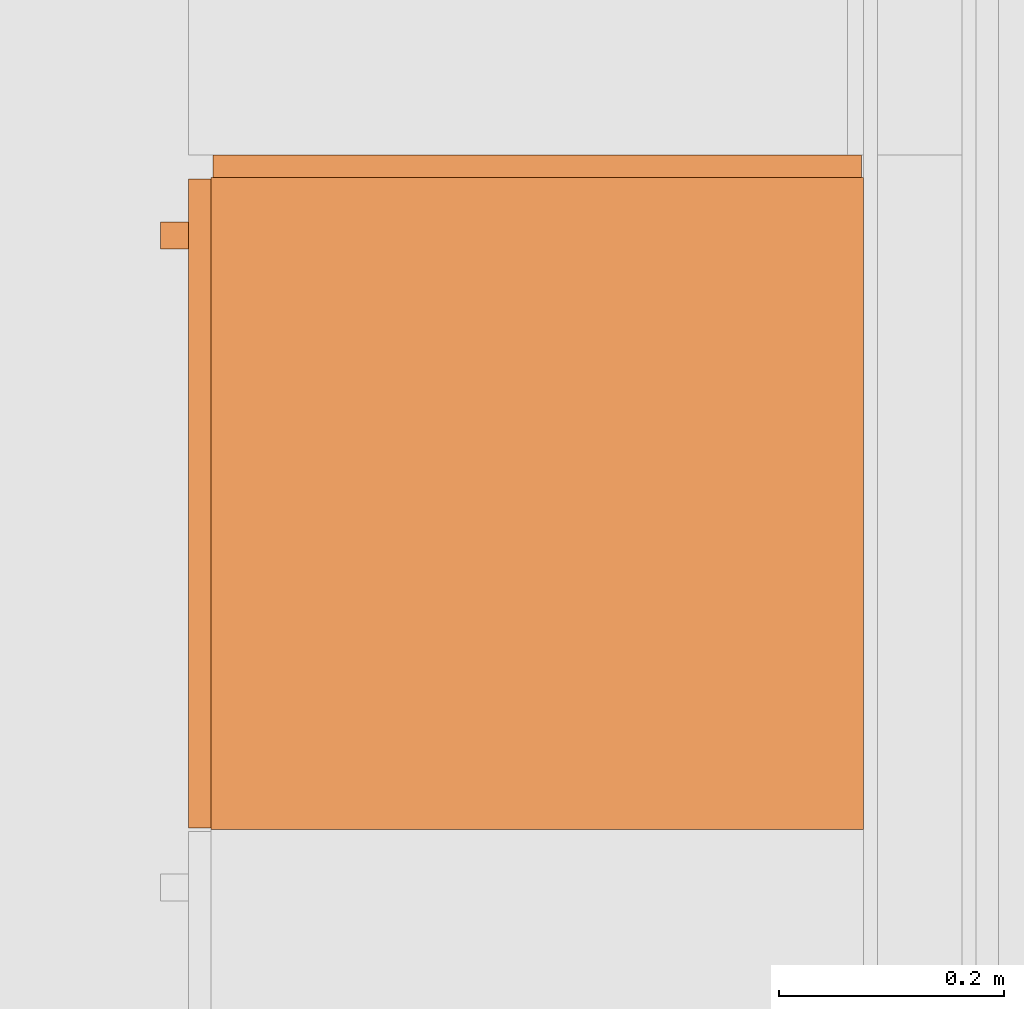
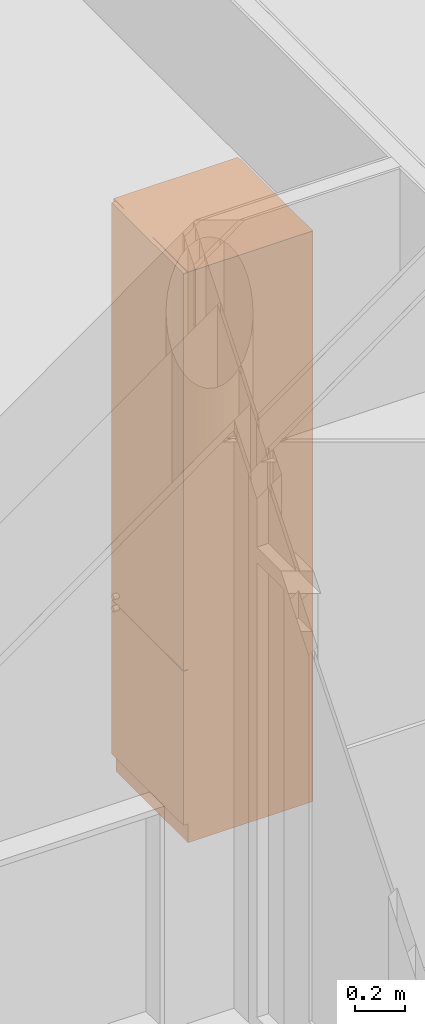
# One storey, part 92 of 167: 1 proxy.
"""IFC2X3 building model written with IfcOpenShell, lengths in millimetres."""

from ifc_helpers import new_model, entity, si_unit, converted_unit, derived_unit, money_unit, direction, frame, origin_with_axes, place, context, subcontext, project, spatial, faceted_brep, source, transform, mapped, type_object, type_shapes, element, save


model = new_model("IFC2X3")

# Units and contexts
model_context = context("Model", 3, precision=0.01, world=origin_with_axes(), true_north=direction((0.0, 1.0)))
plan_context = context("Plan", 3, precision=0.01, world=origin_with_axes(), true_north=direction((0.0, 1.0)))
body_context = subcontext(model_context, "Body", "Model", "MODEL_VIEW")
ifc_project = project(units=[si_unit("LENGTHUNIT", "METRE", prefix="MILLI"), si_unit("AREAUNIT", "SQUARE_METRE"), si_unit("VOLUMEUNIT", "CUBIC_METRE"), converted_unit("PLANEANGLEUNIT", "DEGREE", entity("IfcPlaneAngleMeasure", 0.0174532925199), si_unit("PLANEANGLEUNIT", "RADIAN"), dimensions=[0, 0, 0, 0, 0, 0, 0]), si_unit("SOLIDANGLEUNIT", "STERADIAN"), money_unit("EUR"), converted_unit("TIMEUNIT", "Year", entity("IfcTimeMeasure", 31556926.0), si_unit("TIMEUNIT", "SECOND"), dimensions=[0, 0, 1, 0, 0, 0, 0]), si_unit("MASSUNIT", "GRAM", prefix="KILO"), si_unit("THERMODYNAMICTEMPERATUREUNIT", "DEGREE_CELSIUS"), si_unit("LUMINOUSINTENSITYUNIT", "LUMEN"), si_unit("ENERGYUNIT", "JOULE", prefix="MEGA"), derived_unit("THERMALCONDUCTANCEUNIT", [(si_unit("POWERUNIT", "WATT"), 1), (si_unit("LENGTHUNIT", "METRE"), -1), (si_unit("THERMODYNAMICTEMPERATUREUNIT", "KELVIN"), -1)]), derived_unit("SPECIFICHEATCAPACITYUNIT", [(si_unit("ENERGYUNIT", "JOULE"), 1), (si_unit("MASSUNIT", "GRAM", prefix="KILO"), -1), (si_unit("THERMODYNAMICTEMPERATUREUNIT", "KELVIN"), -1)]), derived_unit("MASSDENSITYUNIT", [(si_unit("MASSUNIT", "GRAM", prefix="KILO"), 1), (si_unit("VOLUMEUNIT", "CUBIC_METRE"), -1)])], contexts=[model_context, plan_context])

# Site, building, storey
site_placement = place(None, origin_with_axes())
site = spatial("IfcSite", under=ifc_project, at=site_placement, Name="Site", CompositionType="ELEMENT")
building_placement = place(site_placement, origin_with_axes())
building = spatial("IfcBuilding", under=site, at=building_placement, Name="Naam gebouw", CompositionType="ELEMENT")
storey_placement = place(building_placement, origin_with_axes())
storey = spatial("IfcBuildingStorey", under=building, at=storey_placement, Name="Begane grond", CompositionType="ELEMENT", Elevation=0.0)

# Proxy
building_element_proxy_type = type_object("IfcBuildingElementProxyType", Name="Kast hoog 1D 24", PredefinedType="NOTDEFINED")
shared_shape = source(origin_with_axes(), body_context, "Body", "Brep", [
    faceted_brep([(-20.0, 20.0, 838.5), (-20.0, 20.0, 858.5), (-560.0, 20.0, 858.5), (-560.0, 20.0, 838.5), (-20.0, 580.0, 838.5), (-20.0, 580.0, 858.5), (-560.0, 580.0, 858.5), (-560.0, 580.0, 838.5)], [[[0, 1, 2, 3]], [[4, 5, 1, 0]], [[1, 5, 6, 2]], [[3, 2, 6, 7]], [[0, 3, 7, 4]], [[7, 6, 5, 4]]]),
    faceted_brep([(0.0, 20.0, 0.0), (0.0, 20.0, 90.0), (-580.0, 20.0, 90.0), (-580.0, 20.0, 0.0), (0.0, 600.0, 0.0), (0.0, 600.0, 90.0), (-580.0, 600.0, 90.0), (-580.0, 600.0, 0.0)], [[[0, 1, 2, 3]], [[4, 5, 1, 0]], [[1, 5, 6, 2]], [[3, 2, 6, 7]], [[0, 3, 7, 4]], [[7, 6, 5, 4]]]),
    faceted_brep([(0.0, 20.0, 2780.0), (0.0, 20.0, 2800.0), (-20.0, 20.0, 2800.0), (-20.0, 20.0, 2780.0), (0.0, 600.0, 2780.0), (0.0, 600.0, 2800.0), (-20.0, 600.0, 2800.0), (-560.0, 600.0, 2800.0), (-580.0, 600.0, 2800.0), (-580.0, 20.0, 2800.0), (-560.0, 20.0, 2800.0), (-560.0, 20.0, 2780.0), (-580.0, 20.0, 2780.0), (-580.0, 600.0, 2780.0), (-560.0, 600.0, 2780.0), (-20.0, 600.0, 2780.0)], [[[0, 1, 2, 3]], [[4, 5, 1, 0]], [[1, 5, 6, 7, 8, 9, 10, 2]], [[3, 2, 10, 11]], [[0, 3, 11, 12, 13, 14, 15, 4]], [[15, 6, 5, 4]], [[14, 7, 6, 15]], [[13, 8, 7, 14]], [[12, 9, 8, 13]], [[11, 10, 9, 12]]]),
    faceted_brep([(0.0, 20.0, 90.0), (0.0, 20.0, 110.0), (-20.0, 20.0, 110.0), (-20.0, 20.0, 90.0), (0.0, 600.0, 90.0), (0.0, 600.0, 110.0), (-20.0, 600.0, 110.0), (-560.0, 600.0, 110.0), (-580.0, 600.0, 110.0), (-580.0, 20.0, 110.0), (-560.0, 20.0, 110.0), (-560.0, 20.0, 90.0), (-580.0, 20.0, 90.0), (-580.0, 600.0, 90.0), (-560.0, 600.0, 90.0), (-20.0, 600.0, 90.0)], [[[0, 1, 2, 3]], [[4, 5, 1, 0]], [[1, 5, 6, 7, 8, 9, 10, 2]], [[3, 2, 10, 11]], [[0, 3, 11, 12, 13, 14, 15, 4]], [[15, 6, 5, 4]], [[14, 7, 6, 15]], [[13, 8, 7, 14]], [[12, 9, 8, 13]], [[11, 10, 9, 12]]]),
    faceted_brep([(0.0, 20.0, 110.0), (0.0, 20.0, 2780.0), (-20.0, 20.0, 2780.0), (-20.0, 20.0, 110.0), (0.0, 600.0, 110.0), (0.0, 600.0, 2780.0), (-580.0, 600.0, 2780.0), (-580.0, 20.0, 2780.0), (-560.0, 20.0, 2780.0), (-560.0, 580.0, 2780.0), (-20.0, 580.0, 2780.0), (-20.0, 580.0, 110.0), (-560.0, 580.0, 110.0), (-560.0, 20.0, 110.0), (-580.0, 20.0, 110.0), (-580.0, 600.0, 110.0)], [[[0, 1, 2, 3]], [[4, 5, 1, 0]], [[1, 5, 6, 7, 8, 9, 10, 2]], [[3, 2, 10, 11]], [[0, 3, 11, 12, 13, 14, 15, 4]], [[15, 6, 5, 4]], [[14, 7, 6, 15]], [[13, 8, 7, 14]], [[12, 9, 8, 13]], [[11, 10, 9, 12]]]),
    faceted_brep([(-560.0, 20.0, 329.5), (-560.0, 20.0, 349.5), (-560.0, 580.0, 349.5), (-560.0, 580.0, 329.5), (-20.0, 20.0, 329.5), (-20.0, 20.0, 349.5), (-20.0, 580.0, 349.5), (-20.0, 580.0, 329.5)], [[[0, 1, 2, 3]], [[4, 5, 1, 0]], [[1, 5, 6, 2]], [[3, 2, 6, 7]], [[0, 3, 7, 4]], [[7, 6, 5, 4]]]),
    faceted_brep([(-560.0, 20.0, 589.0), (-560.0, 20.0, 609.0), (-560.0, 580.0, 609.0), (-560.0, 580.0, 589.0), (-20.0, 20.0, 589.0), (-20.0, 20.0, 609.0), (-20.0, 580.0, 609.0), (-20.0, 580.0, 589.0)], [[[0, 1, 2, 3]], [[4, 5, 1, 0]], [[1, 5, 6, 2]], [[3, 2, 6, 7]], [[0, 3, 7, 4]], [[7, 6, 5, 4]]]),
    faceted_brep([(-1.5, 20.0, 91.5), (-1.5, 0.0, 91.5), (-578.5, 0.0, 91.5), (-578.5, 20.0, 91.5), (-1.5, 20.0, 847.0), (-1.5, 0.0, 847.0), (-578.5, 0.0, 847.0), (-578.5, 20.0, 847.0)], [[[0, 1, 2, 3]], [[4, 5, 1, 0]], [[1, 5, 6, 2]], [[3, 2, 6, 7]], [[0, 3, 7, 4]], [[7, 6, 5, 4]]]),
    faceted_brep([(-540.091109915, 0.0, 838.394171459), (-540.5, 0.0, 841.5), (-540.091109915, 0.0, 844.605828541), (-538.892304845, 0.0, 847.5), (-536.985281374, 0.0, 849.985281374), (-534.5, 0.0, 851.892304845), (-531.605828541, 0.0, 853.091109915), (-528.5, 0.0, 853.5), (-525.394171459, 0.0, 853.091109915), (-522.5, 0.0, 851.892304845), (-520.014718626, 0.0, 849.985281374), (-518.107695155, 0.0, 847.5), (-516.908890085, 0.0, 844.605828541), (-516.5, 0.0, 841.5), (-516.908890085, 0.0, 838.394171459), (-518.107695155, 0.0, 835.5), (-520.014718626, 0.0, 833.014718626), (-522.5, 0.0, 831.107695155), (-525.394171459, 0.0, 829.908890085), (-528.5, 0.0, 829.5), (-531.605828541, 0.0, 829.908890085), (-534.5, 0.0, 831.107695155), (-536.985281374, 0.0, 833.014718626), (-538.892304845, 0.0, 835.5), (-540.091109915, -25.0, 838.394171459), (-540.5, -25.0, 841.5), (-540.091109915, -25.0, 844.605828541), (-538.892304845, -25.0, 847.5), (-536.985281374, -25.0, 849.985281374), (-534.5, -25.0, 851.892304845), (-531.605828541, -25.0, 853.091109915), (-528.5, -25.0, 853.5), (-525.394171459, -25.0, 853.091109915), (-522.5, -25.0, 851.892304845), (-520.014718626, -25.0, 849.985281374), (-518.107695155, -25.0, 847.5), (-516.908890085, -25.0, 844.605828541), (-516.5, -25.0, 841.5), (-516.908890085, -25.0, 838.394171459), (-518.107695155, -25.0, 835.5), (-520.014718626, -25.0, 833.014718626), (-522.5, -25.0, 831.107695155), (-525.394171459, -25.0, 829.908890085), (-528.5, -25.0, 829.5), (-531.605828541, -25.0, 829.908890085), (-534.5, -25.0, 831.107695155), (-536.985281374, -25.0, 833.014718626), (-538.892304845, -25.0, 835.5)], [[[0, 1, 2, 3, 4, 5, 6, 7, 8, 9, 10, 11, 12, 13, 14, 15, 16, 17, 18, 19, 20, 21, 22, 23]], [[0, 24, 25, 1]], [[1, 25, 26, 2]], [[2, 26, 27, 3]], [[3, 27, 28, 4]], [[4, 28, 29, 5]], [[5, 29, 30, 6]], [[6, 30, 31, 7]], [[7, 31, 32, 8]], [[8, 32, 33, 9]], [[9, 33, 34, 10]], [[10, 34, 35, 11]], [[11, 35, 36, 12]], [[12, 36, 37, 13]], [[13, 37, 38, 14]], [[14, 38, 39, 15]], [[15, 39, 40, 16]], [[16, 40, 41, 17]], [[17, 41, 42, 18]], [[18, 42, 43, 19]], [[19, 43, 44, 20]], [[20, 44, 45, 21]], [[21, 45, 46, 22]], [[22, 46, 47, 23]], [[23, 47, 24, 0]], [[24, 47, 46, 45, 44, 43, 42, 41, 40, 39, 38, 37, 36, 35, 34, 33, 32, 31, 30, 29, 28, 27, 26, 25]]]),
    faceted_brep([(-1.5, 20.0, 850.0), (-1.5, 0.0, 850.0), (-578.5, 0.0, 850.0), (-578.5, 20.0, 850.0), (-1.5, 20.0, 2798.5), (-1.5, 0.0, 2798.5), (-578.5, 0.0, 2798.5), (-578.5, 20.0, 2798.5)], [[[0, 1, 2, 3]], [[4, 5, 1, 0]], [[1, 5, 6, 2]], [[3, 2, 6, 7]], [[0, 3, 7, 4]], [[7, 6, 5, 4]]]),
    faceted_brep([(-540.091109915, 0.0, 896.894171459), (-540.5, 0.0, 900.0), (-540.091109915, 0.0, 903.105828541), (-538.892304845, 0.0, 906.0), (-536.985281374, 0.0, 908.485281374), (-534.5, 0.0, 910.392304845), (-531.605828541, 0.0, 911.591109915), (-528.5, 0.0, 912.0), (-525.394171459, 0.0, 911.591109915), (-522.5, 0.0, 910.392304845), (-520.014718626, 0.0, 908.485281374), (-518.107695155, 0.0, 906.0), (-516.908890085, 0.0, 903.105828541), (-516.5, 0.0, 900.0), (-516.908890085, 0.0, 896.894171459), (-518.107695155, 0.0, 894.0), (-520.014718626, 0.0, 891.514718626), (-522.5, 0.0, 889.607695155), (-525.394171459, 0.0, 888.408890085), (-528.5, 0.0, 888.0), (-531.605828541, 0.0, 888.408890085), (-534.5, 0.0, 889.607695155), (-536.985281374, 0.0, 891.514718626), (-538.892304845, 0.0, 894.0), (-540.091109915, -25.0, 896.894171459), (-540.5, -25.0, 900.0), (-540.091109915, -25.0, 903.105828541), (-538.892304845, -25.0, 906.0), (-536.985281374, -25.0, 908.485281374), (-534.5, -25.0, 910.392304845), (-531.605828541, -25.0, 911.591109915), (-528.5, -25.0, 912.0), (-525.394171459, -25.0, 911.591109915), (-522.5, -25.0, 910.392304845), (-520.014718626, -25.0, 908.485281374), (-518.107695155, -25.0, 906.0), (-516.908890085, -25.0, 903.105828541), (-516.5, -25.0, 900.0), (-516.908890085, -25.0, 896.894171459), (-518.107695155, -25.0, 894.0), (-520.014718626, -25.0, 891.514718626), (-522.5, -25.0, 889.607695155), (-525.394171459, -25.0, 888.408890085), (-528.5, -25.0, 888.0), (-531.605828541, -25.0, 888.408890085), (-534.5, -25.0, 889.607695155), (-536.985281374, -25.0, 891.514718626), (-538.892304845, -25.0, 894.0)], [[[0, 1, 2, 3, 4, 5, 6, 7, 8, 9, 10, 11, 12, 13, 14, 15, 16, 17, 18, 19, 20, 21, 22, 23]], [[0, 24, 25, 1]], [[1, 25, 26, 2]], [[2, 26, 27, 3]], [[3, 27, 28, 4]], [[4, 28, 29, 5]], [[5, 29, 30, 6]], [[6, 30, 31, 7]], [[7, 31, 32, 8]], [[8, 32, 33, 9]], [[9, 33, 34, 10]], [[10, 34, 35, 11]], [[11, 35, 36, 12]], [[12, 36, 37, 13]], [[13, 37, 38, 14]], [[14, 38, 39, 15]], [[15, 39, 40, 16]], [[16, 40, 41, 17]], [[17, 41, 42, 18]], [[18, 42, 43, 19]], [[19, 43, 44, 20]], [[20, 44, 45, 21]], [[21, 45, 46, 22]], [[22, 46, 47, 23]], [[23, 47, 24, 0]], [[24, 47, 46, 45, 44, 43, 42, 41, 40, 39, 38, 37, 36, 35, 34, 33, 32, 31, 30, 29, 28, 27, 26, 25]]]),
    faceted_brep([(-580.0, 21.5, 91.5), (-600.0, 21.5, 91.5), (-600.0, 598.5, 91.5), (-580.0, 598.5, 91.5), (-580.0, 21.5, 847.0), (-600.0, 21.5, 847.0), (-600.0, 598.5, 847.0), (-580.0, 598.5, 847.0)], [[[0, 1, 2, 3]], [[4, 5, 1, 0]], [[1, 5, 6, 2]], [[3, 2, 6, 7]], [[0, 3, 7, 4]], [[7, 6, 5, 4]]]),
    faceted_brep([(-580.0, 21.5, 850.0), (-600.0, 21.5, 850.0), (-600.0, 598.5, 850.0), (-580.0, 598.5, 850.0), (-580.0, 21.5, 2798.5), (-600.0, 21.5, 2798.5), (-600.0, 598.5, 2798.5), (-580.0, 598.5, 2798.5)], [[[0, 1, 2, 3]], [[4, 5, 1, 0]], [[1, 5, 6, 2]], [[3, 2, 6, 7]], [[0, 3, 7, 4]], [[7, 6, 5, 4]]]),
])
type_shapes(building_element_proxy_type, [shared_shape])
proxy_placement = place(storey_placement, frame((7550.0, 22414.0, 0.0), z_axis=(0.0, 0.0, 1.0), x_axis=(0.0, -1.0, 0.0)))
element("IfcBuildingElementProxy", 1, at=proxy_placement, inside=storey, type_object=building_element_proxy_type, Name="__Object-x", context=body_context, shape_type="MappedRepresentation", body=[
    mapped(shared_shape, transform((0.0, 0.0, 0.0))),
])

save(model, "model.ifc")
